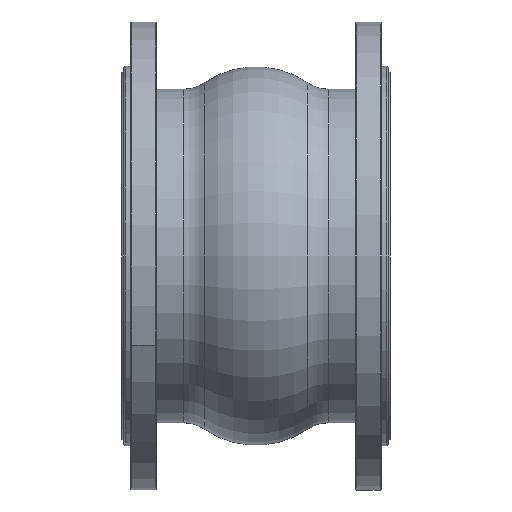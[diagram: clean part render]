
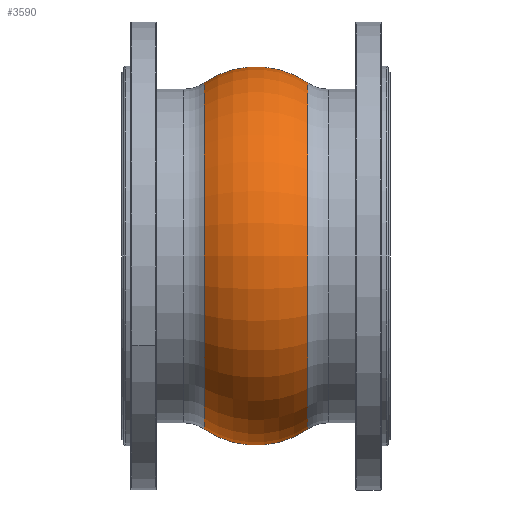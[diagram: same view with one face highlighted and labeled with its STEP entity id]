
A CAD part, front view. The second image highlights one B-rep face of the part: STEP entity #3590.
In plain terms, the highlighted toroidal (fillet/blend) face has major radius 96 mm and minor radius 90 mm.
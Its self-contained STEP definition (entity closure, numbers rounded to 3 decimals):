
#12 = EDGE_LOOP ( 'NONE', ( #1397, #2785, #4137, #1098 ) ) ;
#15 = EDGE_CURVE ( 'NONE', #2236, #4509, #2146, .T. ) ;
#168 = CARTESIAN_POINT ( 'NONE',  ( 0., 0., 96. ) ) ;
#256 = DIRECTION ( 'NONE',  ( 0., -1., 0. ) ) ;
#525 = DIRECTION ( 'NONE',  ( 0., 0., 1. ) ) ;
#698 = DIRECTION ( 'NONE',  ( 0., 0., 1. ) ) ;
#880 = CARTESIAN_POINT ( 'NONE',  ( -50.993, 0., 0. ) ) ;
#934 = CIRCLE ( 'NONE', #1220, 170.16 ) ;
#958 = DIRECTION ( 'NONE',  ( 0., 0., -1. ) ) ;
#1098 = ORIENTED_EDGE ( 'NONE', *, *, #2694, .F. ) ;
#1158 = DIRECTION ( 'NONE',  ( -1., 0., 0. ) ) ;
#1220 = AXIS2_PLACEMENT_3D ( 'NONE', #1612, #2346, #525 ) ;
#1397 = ORIENTED_EDGE ( 'NONE', *, *, #2470, .F. ) ;
#1612 = CARTESIAN_POINT ( 'NONE',  ( 50.993, 0., 0. ) ) ;
#1783 = AXIS2_PLACEMENT_3D ( 'NONE', #168, #256, #958 ) ;
#1851 = DIRECTION ( 'NONE',  ( 0., 1., 0. ) ) ;
#1957 = VERTEX_POINT ( 'NONE', #2992 ) ;
#2146 = CIRCLE ( 'NONE', #1783, 90. ) ;
#2236 = VERTEX_POINT ( 'NONE', #2790 ) ;
#2346 = DIRECTION ( 'NONE',  ( -1., 0., 0. ) ) ;
#2470 = EDGE_CURVE ( 'NONE', #4445, #1957, #3592, .T. ) ;
#2549 = CARTESIAN_POINT ( 'NONE',  ( -50.993, 0., 170.16 ) ) ;
#2694 = EDGE_CURVE ( 'NONE', #1957, #4509, #4225, .T. ) ;
#2748 = EDGE_CURVE ( 'NONE', #4445, #2236, #934, .T. ) ;
#2785 = ORIENTED_EDGE ( 'NONE', *, *, #2748, .T. ) ;
#2790 = CARTESIAN_POINT ( 'NONE',  ( 50.993, 0., 170.16 ) ) ;
#2935 = CARTESIAN_POINT ( 'NONE',  ( 0., 0., 0. ) ) ;
#2992 = CARTESIAN_POINT ( 'NONE',  ( -50.993, 0., -170.16 ) ) ;
#3062 = FACE_OUTER_BOUND ( 'NONE', #12, .T. ) ;
#3090 = DIRECTION ( 'NONE',  ( 0., 0., 1. ) ) ;
#3316 = AXIS2_PLACEMENT_3D ( 'NONE', #3632, #1851, #698 ) ;
#3590 = ADVANCED_FACE ( 'NONE', ( #3062 ), #3753, .T. ) ;
#3592 = CIRCLE ( 'NONE', #3316, 90. ) ;
#3632 = CARTESIAN_POINT ( 'NONE',  ( 0., 0., -96. ) ) ;
#3731 = AXIS2_PLACEMENT_3D ( 'NONE', #2935, #1158, #3740 ) ;
#3740 = DIRECTION ( 'NONE',  ( 0., 0., 1. ) ) ;
#3753 = TOROIDAL_SURFACE ( 'NONE', #3731, 96., 90. ) ;
#3844 = DIRECTION ( 'NONE',  ( -1., 0., 0. ) ) ;
#4040 = CARTESIAN_POINT ( 'NONE',  ( 50.993, 0., -170.16 ) ) ;
#4137 = ORIENTED_EDGE ( 'NONE', *, *, #15, .T. ) ;
#4225 = CIRCLE ( 'NONE', #4598, 170.16 ) ;
#4445 = VERTEX_POINT ( 'NONE', #4040 ) ;
#4509 = VERTEX_POINT ( 'NONE', #2549 ) ;
#4598 = AXIS2_PLACEMENT_3D ( 'NONE', #880, #3844, #3090 ) ;
